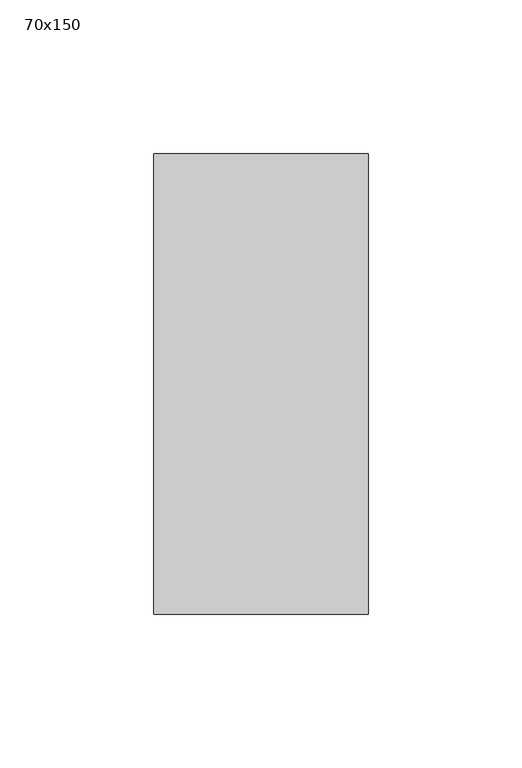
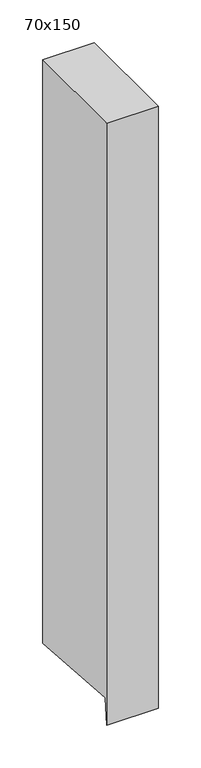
"""IFC4 building model written with IfcOpenShell, lengths in millimetres: member geometry, 長方形のマリオン : 70x150."""

from ifc_helpers import new_model, si_unit, frame, origin, place, context, project, spatial, polyline, outline, extrude, source, transform, mapped, element, save


def member_70x150_d69aca67(model_context):
    return source(origin(), model_context, "Body", "SweptSolid", [
        extrude(outline(polyline([(-75.0, 0.0), (75.0, 0.0), (75.0, -835.5953132), (-72.1340754, -824.4207545), (-75.0, -862.1560401), (-75.0, 0.0)])), frame((-70.0, 0.0, 0.0), z_axis=(1.0, 0.0, 0.0), x_axis=(0.0, 1.0, 0.0)), (0.0, 0.0, 1.0), 70.0),
    ])


if __name__ == "__main__":
    model = new_model("IFC4")
    model_context = context("Model", 3, world=origin())
    ifc_project = project(units=[si_unit("LENGTHUNIT", "METRE", prefix="MILLI")], contexts=[model_context])
    site = spatial("IfcSite", under=ifc_project)
    building = spatial("IfcBuilding", under=site)
    placement = place(None, origin())
    member_70x150_shape = member_70x150_d69aca67(model_context)
    element("IfcMember", 1, ObjectType="長方形のマリオン : 70x150", at=placement, inside=building, context=model_context, shape_type="MappedRepresentation", body=[
        mapped(member_70x150_shape, transform((0.0, 0.0, 0.0), x_axis=(1.0, 0.0, 0.0), y_axis=(0.0, 1.0, 0.0), z_axis=(0.0, 0.0, 1.0))),
    ])
    save(model, "model.ifc")
